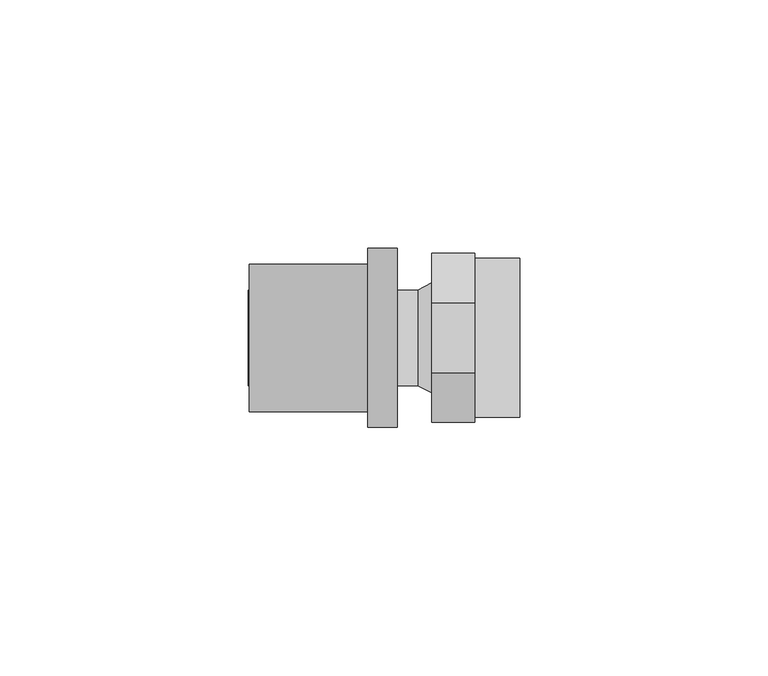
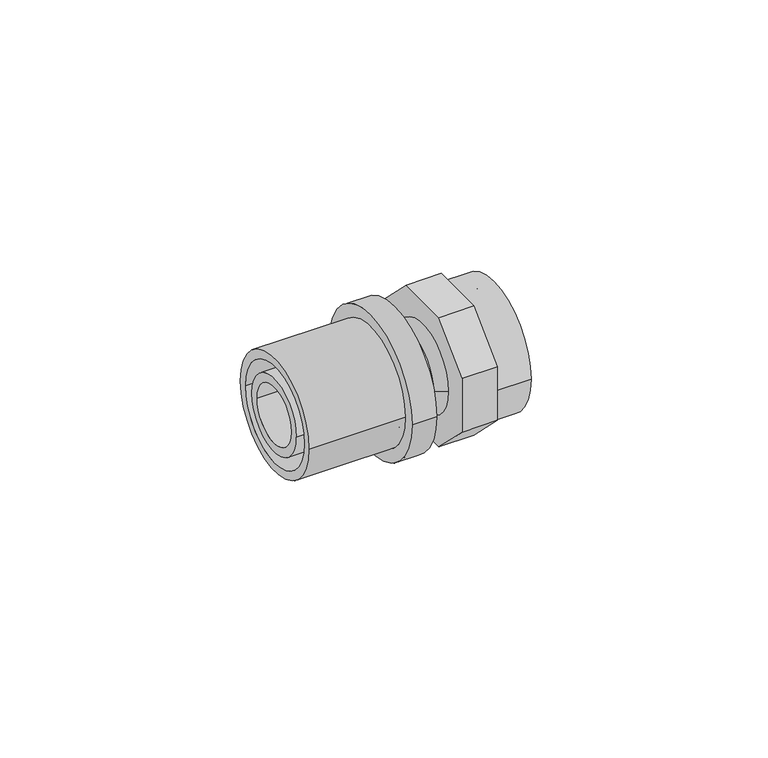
"""IFC4 building model written with IfcOpenShell, lengths in millimetres: pipe fitting geometry, FASTLOC_Adapter_EX+, with internal thread : FSL A internal AT."""

from ifc_helpers import new_model, si_unit, point, frame, origin, origin_2d, place, context, project, spatial, polyline, circle_curve, trimmed, segment, composite_curve, outline, extrude, source, transform, mapped, element, save
from ifc_brep_helpers import plane_surface, cylinder_surface, revolved_surface, advanced_brep


def pipe_fitting_cd4c1f98(model_context):
    return source(origin(), model_context, "Body", "SolidModel", [
        advanced_brep(
        [(-12.9, -18.0, 0.0), (-12.9, 18.0, 0.0), (-6.9, 18.0, 0.0), (-6.9, -18.0, 0.0), (-36.7, -14.85, 0.0), (-36.7, 14.85, 0.0), (-12.9, 14.85, 0.0), (-12.9, -14.85, 0.0), (-6.9, -12.65, 0.0), (-6.9, 12.65, 0.0), (-36.7, 12.65, 0.0), (-36.7, -12.65, 0.0)],
        [
            (0, 1, circle_curve(frame((-12.9, 0.0, 0.0), z_axis=(1.0, 0.0, 0.0), x_axis=(0.0, 1.0, 0.0)), 18.0)),
            (1, 2),
            (2, 3, circle_curve(frame((-6.9, 0.0, 0.0), z_axis=(-1.0, 0.0, 0.0), x_axis=(0.0, 1.0, 0.0)), 18.0)),
            (3, 0),
            (4, 5, circle_curve(frame((-36.7, 0.0, 0.0), z_axis=(1.0, 0.0, 0.0), x_axis=(0.0, 1.0, 0.0)), 14.85)),
            (5, 6),
            (6, 7, circle_curve(frame((-12.9, 0.0, 0.0), z_axis=(-1.0, 0.0, 0.0), x_axis=(0.0, 1.0, 0.0)), 14.85)),
            (7, 4),
            (8, 9, circle_curve(frame((-6.9, 0.0, 0.0), z_axis=(1.0, 0.0, 0.0), x_axis=(0.0, 1.0, 0.0)), 12.65)),
            (9, 10),
            (10, 11, circle_curve(frame((-36.7, 0.0, 0.0), z_axis=(-1.0, 0.0, 0.0), x_axis=(0.0, 1.0, 0.0)), 12.65)),
            (11, 8),
            (1, 0, circle_curve(frame((-12.9, 0.0, 0.0), z_axis=(1.0, 0.0, 0.0), x_axis=(0.0, -1.0, 0.0)), 18.0)),
            (3, 2, circle_curve(frame((-6.9, 0.0, 0.0), z_axis=(-1.0, 0.0, 0.0), x_axis=(0.0, -1.0, 0.0)), 18.0)),
            (6, 7, circle_curve(frame((-12.9, 0.0, 0.0), z_axis=(1.0, 0.0, 0.0), x_axis=(0.0, -1.0, 0.0)), 14.85)),
            (5, 4, circle_curve(frame((-36.7, 0.0, 0.0), z_axis=(1.0, 0.0, 0.0), x_axis=(0.0, -1.0, 0.0)), 14.85)),
            (10, 11, circle_curve(frame((-36.7, 0.0, 0.0), z_axis=(1.0, 0.0, 0.0), x_axis=(0.0, -1.0, 0.0)), 12.65)),
            (9, 8, circle_curve(frame((-6.9, 0.0, 0.0), z_axis=(1.0, 0.0, 0.0), x_axis=(0.0, -1.0, 0.0)), 12.65)),
        ],
        [
            cylinder_surface(frame((-6.9, 0.0, 0.0), z_axis=(-1.0, 0.0, 0.0), x_axis=(0.0, 1.0, 0.0)), 18.0),
            cylinder_surface(frame((-6.9, 0.0, 0.0), z_axis=(-1.0, 0.0, 0.0), x_axis=(0.0, 1.0, 0.0)), 14.85),
            revolved_surface(polyline([(-36.7, 12.65, 0.0), (-6.9, 12.65, 0.0)]), (-6.9, 0.0, 0.0), (-1.0, 0.0, 0.0)),
            cylinder_surface(frame((-6.9, 0.0, 0.0), z_axis=(-1.0, 0.0, 0.0), x_axis=(0.0, -1.0, 0.0)), 18.0),
            plane_surface(frame((-12.9, 0.0, 0.0), z_axis=(-1.0, 0.0, 0.0), x_axis=(0.0, -1.0, 0.0))),
            cylinder_surface(frame((-6.9, 0.0, 0.0), z_axis=(-1.0, 0.0, 0.0), x_axis=(0.0, -1.0, 0.0)), 14.85),
            plane_surface(frame((-36.7, 0.0, 0.0), z_axis=(-1.0, 0.0, 0.0), x_axis=(0.0, -1.0, 0.0))),
            revolved_surface(polyline([(-36.7, -12.65, 0.0), (-6.9, -12.65, 0.0)]), (-6.9, 0.0, 0.0), (-1.0, 0.0, 0.0)),
            plane_surface(frame((-6.9, 0.0, 0.0), z_axis=(1.0, 0.0, 0.0), x_axis=(0.0, -1.0, 0.0))),
        ],
        [
            (0, [[1, 2, 3, 4]]),
            (1, [[5, 6, 7, 8]]),
            (2, [[9, 10, 11, 12]]),
            (3, [[13, -4, 14, -2]]),
            (4, [[-13, -1], [15, -7]]),
            (5, [[16, -8, -15, -6]]),
            (6, [[-16, -5], [17, -11]]),
            (7, [[18, -12, -17, -10]]),
            (8, [[-14, -3], [-18, -9]]),
        ],
    ),
        advanced_brep(
        [(-12.9, 9.6, 0.0), (-12.9, -9.6, 0.0), (-36.9, -9.6, 0.0), (-36.9, 9.6, 0.0), (-10.1, 11.1, 0.0), (-10.1, -11.1, 0.0), (-12.9, -11.1, 0.0), (-12.9, 11.1, 0.0), (-2.8, 9.6, 0.0), (-2.8, -9.6, 0.0), (-10.1, -9.6, 0.0), (-10.1, 9.6, 0.0), (0.0, 11.1, 0.0), (0.0, -11.1, 0.0), (-36.9, 7.35, 0.0), (-36.9, -7.35, 0.0), (0.0, -7.35, 0.0), (0.0, 7.35, 0.0)],
        [
            (0, 1, circle_curve(frame((-12.9, 0.0, 0.0), z_axis=(-1.0, 0.0, 0.0), x_axis=(0.0, -1.0, 0.0)), 9.6)),
            (1, 2),
            (2, 3, circle_curve(frame((-36.9, 0.0, 0.0), z_axis=(1.0, 0.0, 0.0), x_axis=(0.0, -1.0, 0.0)), 9.6)),
            (3, 0),
            (4, 5, circle_curve(frame((-10.1, 0.0, 0.0), z_axis=(-1.0, 0.0, 0.0), x_axis=(0.0, -1.0, 0.0)), 11.1)),
            (5, 6),
            (6, 7, circle_curve(frame((-12.9, 0.0, 0.0), z_axis=(1.0, 0.0, 0.0), x_axis=(0.0, -1.0, 0.0)), 11.1)),
            (7, 4),
            (8, 9, circle_curve(frame((-2.8, 0.0, 0.0), z_axis=(-1.0, 0.0, 0.0), x_axis=(0.0, -1.0, 0.0)), 9.6)),
            (9, 10),
            (10, 11, circle_curve(frame((-10.1, 0.0, 0.0), z_axis=(1.0, 0.0, 0.0), x_axis=(0.0, -1.0, 0.0)), 9.6)),
            (11, 8),
            (12, 13, circle_curve(frame((0.0, 0.0, 0.0), z_axis=(-1.0, 0.0, 0.0), x_axis=(0.0, -1.0, 0.0)), 11.1)),
            (13, 9),
            (8, 12),
            (14, 15, circle_curve(frame((-36.9, 0.0, 0.0), z_axis=(-1.0, 0.0, 0.0), x_axis=(0.0, -1.0, 0.0)), 7.35)),
            (15, 16),
            (16, 17, circle_curve(frame((0.0, 0.0, 0.0), z_axis=(1.0, 0.0, 0.0), x_axis=(0.0, -1.0, 0.0)), 7.35)),
            (17, 14),
            (2, 3, circle_curve(frame((-36.9, 0.0, 0.0), z_axis=(-1.0, 0.0, 0.0), x_axis=(0.0, 1.0, 0.0)), 9.6)),
            (14, 15, circle_curve(frame((-36.9, 0.0, 0.0), z_axis=(1.0, 0.0, 0.0), x_axis=(0.0, 1.0, 0.0)), 7.35)),
            (1, 0, circle_curve(frame((-12.9, 0.0, 0.0), z_axis=(-1.0, 0.0, 0.0), x_axis=(0.0, 1.0, 0.0)), 9.6)),
            (6, 7, circle_curve(frame((-12.9, 0.0, 0.0), z_axis=(-1.0, 0.0, 0.0), x_axis=(0.0, 1.0, 0.0)), 11.1)),
            (5, 4, circle_curve(frame((-10.1, 0.0, 0.0), z_axis=(-1.0, 0.0, 0.0), x_axis=(0.0, 1.0, 0.0)), 11.1)),
            (10, 11, circle_curve(frame((-10.1, 0.0, 0.0), z_axis=(-1.0, 0.0, 0.0), x_axis=(0.0, 1.0, 0.0)), 9.6)),
            (9, 8, circle_curve(frame((-2.8, 0.0, 0.0), z_axis=(-1.0, 0.0, 0.0), x_axis=(0.0, 1.0, 0.0)), 9.6)),
            (13, 12, circle_curve(frame((0.0, 0.0, 0.0), z_axis=(-1.0, 0.0, 0.0), x_axis=(0.0, 1.0, 0.0)), 11.1)),
            (16, 17, circle_curve(frame((0.0, 0.0, 0.0), z_axis=(-1.0, 0.0, 0.0), x_axis=(0.0, 1.0, 0.0)), 7.35)),
        ],
        [
            cylinder_surface(frame((0.0, 0.0, 0.0), z_axis=(1.0, 0.0, 0.0), x_axis=(0.0, -1.0, 0.0)), 9.6),
            cylinder_surface(frame((0.0, 0.0, 0.0), z_axis=(1.0, 0.0, 0.0), x_axis=(0.0, -1.0, 0.0)), 11.1),
            revolved_surface(polyline([(-2.8, -9.6, 0.0), (0.0, -11.1, 0.0)]), (0.0, 0.0, 0.0), (1.0, 0.0, 0.0)),
            revolved_surface(polyline([(0.0, -7.35, 0.0), (-36.9, -7.35, 0.0)]), (0.0, 0.0, 0.0), (1.0, 0.0, 0.0)),
            plane_surface(frame((-36.9, 0.0, 0.0), z_axis=(-1.0, 0.0, 0.0), x_axis=(0.0, 1.0, 0.0))),
            cylinder_surface(frame((0.0, 0.0, 0.0), z_axis=(1.0, 0.0, 0.0), x_axis=(0.0, 1.0, 0.0)), 9.6),
            plane_surface(frame((-12.9, 0.0, 0.0), z_axis=(-1.0, 0.0, 0.0), x_axis=(0.0, 1.0, 0.0))),
            cylinder_surface(frame((0.0, 0.0, 0.0), z_axis=(1.0, 0.0, 0.0), x_axis=(0.0, 1.0, 0.0)), 11.1),
            plane_surface(frame((-10.1, 0.0, 0.0), z_axis=(1.0, 0.0, 0.0), x_axis=(0.0, 1.0, 0.0))),
            revolved_surface(polyline([(-2.8, 9.6, 0.0), (0.0, 11.1, 0.0)]), (0.0, 0.0, 0.0), (1.0, 0.0, 0.0)),
            plane_surface(frame((0.0, 0.0, 0.0), z_axis=(1.0, 0.0, 0.0), x_axis=(0.0, 1.0, 0.0))),
            revolved_surface(polyline([(0.0, 7.35, 0.0), (-36.9, 7.35, 0.0)]), (0.0, 0.0, 0.0), (1.0, 0.0, 0.0)),
        ],
        [
            (0, [[1, 2, 3, 4]]),
            (1, [[5, 6, 7, 8]]),
            (0, [[9, 10, 11, 12]]),
            (2, [[13, 14, -9, 15]]),
            (3, [[16, 17, 18, 19]]),
            (4, [[20, -3], [21, -16]]),
            (5, [[22, -4, -20, -2]]),
            (6, [[23, -7], [-22, -1]]),
            (7, [[24, -8, -23, -6]]),
            (8, [[-24, -5], [25, -11]]),
            (5, [[26, -12, -25, -10]]),
            (9, [[27, -15, -26, -14]]),
            (10, [[-27, -13], [28, -18]]),
            (11, [[-21, -19, -28, -17]]),
        ],
    ),
        extrude(outline(polyline([(-7.0416306, -17.0), (-17.0, -7.0416306), (-17.0, 7.0416306), (-7.0416306, 17.0), (7.0416306, 17.0), (17.0, 7.0416306), (17.0, -7.0416306), (7.0416306, -17.0), (-7.0416306, -17.0)]), holes=[composite_curve([segment(trimmed(circle_curve(origin_2d(), 7.35), [point((-7.35, 0.0))], [point((7.35, 0.0))], True, "CARTESIAN"), True, "CONTINUOUS"), segment(trimmed(circle_curve(origin_2d(), 7.35), [point((7.35, 0.0))], [point((-7.35, 0.0))], True, "CARTESIAN"), True, "CONTINUOUS")], self_intersect=False)]), frame((0.0, 0.0, 0.0), z_axis=(1.0, 0.0, 0.0), x_axis=(0.0, 1.0, 0.0)), (0.0, 0.0, 1.0), 8.7),
        extrude(outline(composite_curve([segment(trimmed(circle_curve(origin_2d(), 16.0), [point((-16.0, 0.0))], [point((16.0, 0.0))], False, "CARTESIAN"), True, "CONTINUOUS"), segment(trimmed(circle_curve(origin_2d(), 16.0), [point((16.0, 0.0))], [point((-16.0, 0.0))], False, "CARTESIAN"), True, "CONTINUOUS")], self_intersect=False), holes=[composite_curve([segment(trimmed(circle_curve(origin_2d(), 12.05), [point((-12.05, 0.0))], [point((12.05, 0.0))], True, "CARTESIAN"), True, "CONTINUOUS"), segment(trimmed(circle_curve(origin_2d(), 12.05), [point((12.05, 0.0))], [point((-12.05, 0.0))], True, "CARTESIAN"), True, "CONTINUOUS")], self_intersect=False)]), frame((8.7, 0.0, 0.0), z_axis=(1.0, 0.0, 0.0), x_axis=(0.0, 1.0, 0.0)), (0.0, 0.0, 1.0), 9.0),
    ])


if __name__ == "__main__":
    model = new_model("IFC4")
    model_context = context("Model", 3, world=origin())
    ifc_project = project(units=[si_unit("LENGTHUNIT", "METRE", prefix="MILLI")], contexts=[model_context])
    site = spatial("IfcSite", under=ifc_project)
    building = spatial("IfcBuilding", under=site)
    placement = place(None, origin())
    pipe_fitting_shape = pipe_fitting_cd4c1f98(model_context)
    element("IfcPipeFitting", 1, ObjectType="FASTLOC_Adapter_EX+, with internal thread : FSL A internal AT", at=placement, inside=building, context=model_context, shape_type="MappedRepresentation", body=[
        mapped(pipe_fitting_shape, transform((0.0, 0.0, 0.0), x_axis=(1.0, 0.0, 0.0), y_axis=(0.0, 1.0, 0.0), z_axis=(0.0, 0.0, 1.0))),
    ])
    save(model, "model.ifc")
